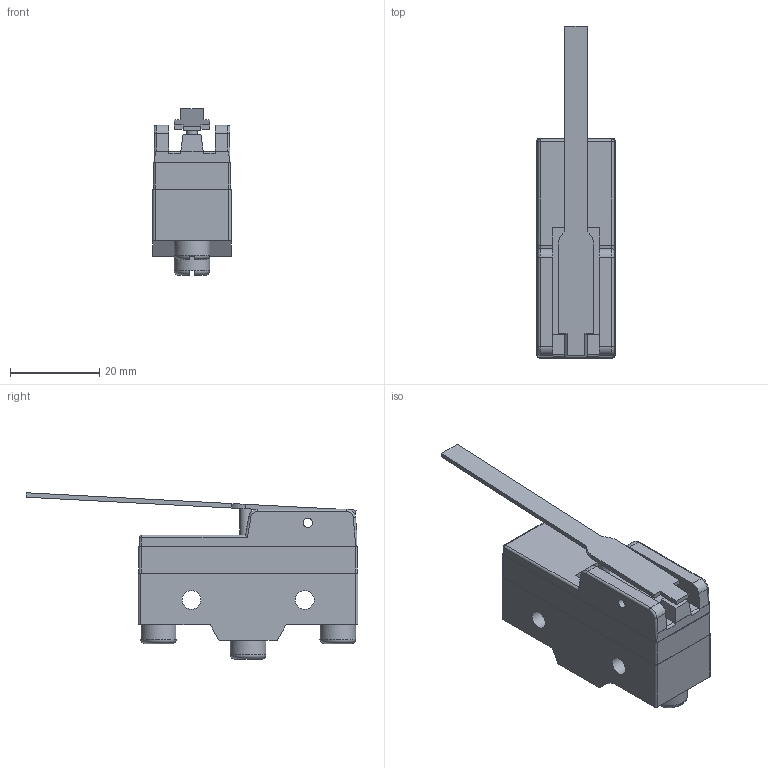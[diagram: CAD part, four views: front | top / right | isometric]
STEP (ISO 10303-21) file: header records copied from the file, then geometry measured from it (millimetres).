
FILE_DESCRIPTION(/* description */ (''),/* implementation_level */ '2;1');
FILE_NAME(/* name */ 'E:\Inventor 2016\제품 외형도\(\X2\C644B8CC\X0\) 리미트 스위치\직류용 마이크로 스위치 (Z형)\YSl2210GW-B.stp',/* time_stamp */ '2019-04-09T10:04:58+09:00',/* author */ ('Kim'),/* organization */ (''),/* preprocessor_version */ 'ST-DEVELOPER v16.1',/* originating_system */ 'Autodesk Inventor 2016',/* authorisation */ '');
FILE_SCHEMA (('AUTOMOTIVE_DESIGN { 1 0 10303 214 3 1 1 }'));
Length unit declared in the file: millimetre
Products named in the file (1): YSl2210GW-B
Bounding box: 17.5 x 74.37 x 37.31 mm (x, y, z)
Volume: 19184.7 mm3; surface area: 7163.1 mm2
Topology: 1 solids, 1 shells, 138 faces, 360 edges, 231 vertices
Faces by surface type: plane 88, cylinder 38, torus 10, sphere 2
Full cylindrical faces by diameter (mm): 2.1 x2, 2.5 x1, 4.2 x2, 8 x3
Entity records: 4320 total; most frequent: CARTESIAN_POINT 822, DIRECTION 709, ORIENTED_EDGE 696, EDGE_CURVE 348, LINE 241, VECTOR 241, AXIS2_PLACEMENT_3D 234, VERTEX_POINT 227
